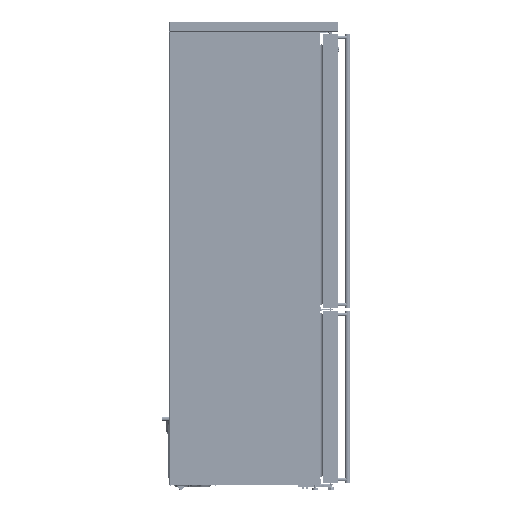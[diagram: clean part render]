
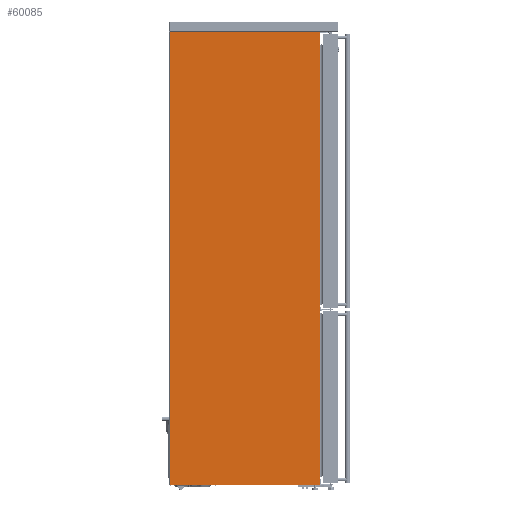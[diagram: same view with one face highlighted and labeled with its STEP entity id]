
A CAD part, left-side view. The second image highlights one B-rep face of the part: STEP entity #60085.
In plain terms, the highlighted planar face has unit normal (-1, 0, 0).
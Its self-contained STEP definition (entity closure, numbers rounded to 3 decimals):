
#15187=PLANE('',#181010);
#22845=FACE_OUTER_BOUND('',#77468,.T.);
#36472=LINE('',#315032,#50596);
#36475=LINE('',#315039,#50599);
#36481=LINE('',#315058,#50605);
#36489=LINE('',#315073,#50613);
#36494=LINE('',#315083,#50618);
#36497=LINE('',#315097,#50621);
#36504=LINE('',#315111,#50628);
#36508=LINE('',#315126,#50632);
#36513=LINE('',#315137,#50637);
#36519=LINE('',#315145,#50643);
#36522=LINE('',#315150,#50646);
#36523=LINE('',#315151,#50647);
#50596=VECTOR('',#223029,1.);
#50599=VECTOR('',#223036,1.);
#50605=VECTOR('',#223052,1.);
#50613=VECTOR('',#223070,1.);
#50618=VECTOR('',#223077,1.);
#50621=VECTOR('',#223090,1.);
#50628=VECTOR('',#223103,1.);
#50632=VECTOR('',#223117,1.);
#50637=VECTOR('',#223128,1.);
#50643=VECTOR('',#223136,1.);
#50646=VECTOR('',#223143,1.);
#50647=VECTOR('',#223144,1.);
#60085=ADVANCED_FACE('',(#22845),#15187,.F.);
#77468=EDGE_LOOP('',(#119361,#119362,#119363,#119364,#119365,#119366,#119367,
#119368,#119369,#119370,#119371,#119372));
#119361=ORIENTED_EDGE('',*,*,#159132,.F.);
#119362=ORIENTED_EDGE('',*,*,#159091,.T.);
#119363=ORIENTED_EDGE('',*,*,#159082,.F.);
#119364=ORIENTED_EDGE('',*,*,#159096,.F.);
#119365=ORIENTED_EDGE('',*,*,#159133,.T.);
#119366=ORIENTED_EDGE('',*,*,#159102,.F.);
#119367=ORIENTED_EDGE('',*,*,#159110,.F.);
#119368=ORIENTED_EDGE('',*,*,#159123,.T.);
#119369=ORIENTED_EDGE('',*,*,#159117,.F.);
#119370=ORIENTED_EDGE('',*,*,#159129,.F.);
#119371=ORIENTED_EDGE('',*,*,#159073,.T.);
#119372=ORIENTED_EDGE('',*,*,#159069,.F.);
#137181=VERTEX_POINT('',#315030);
#137183=VERTEX_POINT('',#315033);
#137185=VERTEX_POINT('',#315040);
#137191=VERTEX_POINT('',#315056);
#137193=VERTEX_POINT('',#315059);
#137195=VERTEX_POINT('',#315074);
#137198=VERTEX_POINT('',#315082);
#137203=VERTEX_POINT('',#315095);
#137205=VERTEX_POINT('',#315098);
#137208=VERTEX_POINT('',#315110);
#137213=VERTEX_POINT('',#315124);
#137215=VERTEX_POINT('',#315127);
#159069=EDGE_CURVE('',#137181,#137183,#36472,.T.);
#159073=EDGE_CURVE('',#137185,#137183,#36475,.T.);
#159082=EDGE_CURVE('',#137191,#137193,#36481,.T.);
#159091=EDGE_CURVE('',#137195,#137193,#36489,.T.);
#159096=EDGE_CURVE('',#137198,#137191,#36494,.T.);
#159102=EDGE_CURVE('',#137203,#137205,#36497,.T.);
#159110=EDGE_CURVE('',#137208,#137203,#36504,.T.);
#159117=EDGE_CURVE('',#137213,#137215,#36508,.T.);
#159123=EDGE_CURVE('',#137208,#137215,#36513,.T.);
#159129=EDGE_CURVE('',#137185,#137213,#36519,.T.);
#159132=EDGE_CURVE('',#137195,#137181,#36522,.T.);
#159133=EDGE_CURVE('',#137198,#137205,#36523,.T.);
#181010=AXIS2_PLACEMENT_3D('',#315152,#223145,#223146);
#223029=DIRECTION('',(0.,1.,0.));
#223036=DIRECTION('',(0.,0.,-1.));
#223052=DIRECTION('',(0.,0.,-1.));
#223070=DIRECTION('',(0.,-1.,0.));
#223077=DIRECTION('',(0.,-1.,0.));
#223090=DIRECTION('',(0.,-1.,0.));
#223103=DIRECTION('',(0.,0.,1.));
#223117=DIRECTION('',(0.,0.,1.));
#223128=DIRECTION('',(0.,1.,0.));
#223136=DIRECTION('',(0.,1.,0.));
#223143=DIRECTION('',(0.,0.,-1.));
#223144=DIRECTION('',(0.,0.,1.));
#223145=DIRECTION('',(1.,0.,0.));
#223146=DIRECTION('',(0.,0.,-1.));
#315030=CARTESIAN_POINT('',(-351.8,13.334,53.534));
#315032=CARTESIAN_POINT('',(-351.8,13.334,53.534));
#315033=CARTESIAN_POINT('',(-351.8,639.534,53.534));
#315039=CARTESIAN_POINT('',(-351.8,639.534,53.534));
#315040=CARTESIAN_POINT('',(-351.8,639.534,53.834));
#315056=CARTESIAN_POINT('',(-351.8,13.034,1945.034));
#315058=CARTESIAN_POINT('',(-351.8,13.034,1945.034));
#315059=CARTESIAN_POINT('',(-351.8,13.034,53.834));
#315073=CARTESIAN_POINT('',(-351.8,639.834,53.834));
#315074=CARTESIAN_POINT('',(-351.8,13.334,53.834));
#315082=CARTESIAN_POINT('',(-351.8,13.334,1945.034));
#315083=CARTESIAN_POINT('',(-351.8,641.434,1945.034));
#315095=CARTESIAN_POINT('',(-351.8,639.534,1945.334));
#315097=CARTESIAN_POINT('',(-351.8,639.534,1945.334));
#315098=CARTESIAN_POINT('',(-351.8,13.334,1945.334));
#315110=CARTESIAN_POINT('',(-351.8,639.534,1945.034));
#315111=CARTESIAN_POINT('',(-351.8,639.534,51.934));
#315124=CARTESIAN_POINT('',(-351.8,639.834,53.834));
#315126=CARTESIAN_POINT('',(-351.8,639.834,53.834));
#315127=CARTESIAN_POINT('',(-351.8,639.834,1945.034));
#315137=CARTESIAN_POINT('',(-351.8,639.834,1945.034));
#315145=CARTESIAN_POINT('',(-351.8,639.834,53.834));
#315150=CARTESIAN_POINT('',(-351.8,13.334,1946.934));
#315151=CARTESIAN_POINT('',(-351.8,13.334,1945.334));
#315152=CARTESIAN_POINT('',(-351.8,639.834,53.534));
